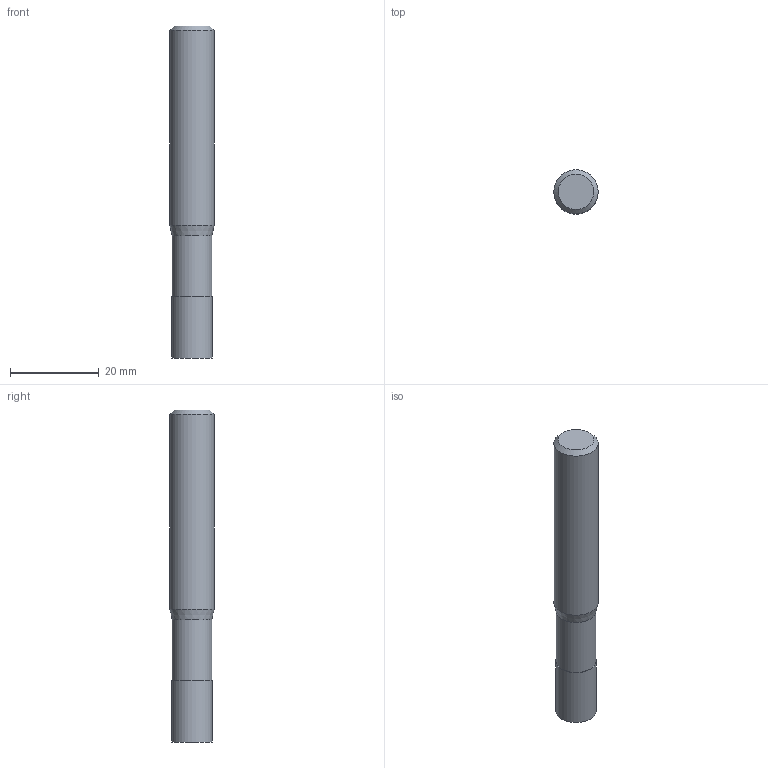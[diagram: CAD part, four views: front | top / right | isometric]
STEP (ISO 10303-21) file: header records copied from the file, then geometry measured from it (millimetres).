
FILE_DESCRIPTION((''),'2;1');
FILE_NAME('C:\Users\nsx150\AppData\Local\Temp\Mastercam 2021\EUJSUNXURU\TEMP.step','2021-04-22T10:29:43',(''),(''),'STEP Write','Mastercam 2021 ... CNC Software, Inc.','');
FILE_SCHEMA(('AUTOMOTIVE_DESIGN'));
Length unit declared in the file: millimetre
Products named in the file (1): None
Bounding box: 10 x 10 x 75 mm (x, y, z)
Volume: 5485.6 mm3; surface area: 2531.4 mm2
Topology: 2 solids, 2 shells, 9 faces, 12 edges, 7 vertices
Faces by surface type: plane 4, cylinder 3, cone 2
Full cylindrical faces by diameter (mm): 9 x1, 9.2 x1, 10 x1
Entity records: 211 total; most frequent: DIRECTION 36, CARTESIAN_POINT 25, AXIS2_PLACEMENT_3D 18, ORIENTED_EDGE 14, EDGE_LOOP 14, STYLED_ITEM 12, ADVANCED_FACE 9, FACE_BOUND 8
